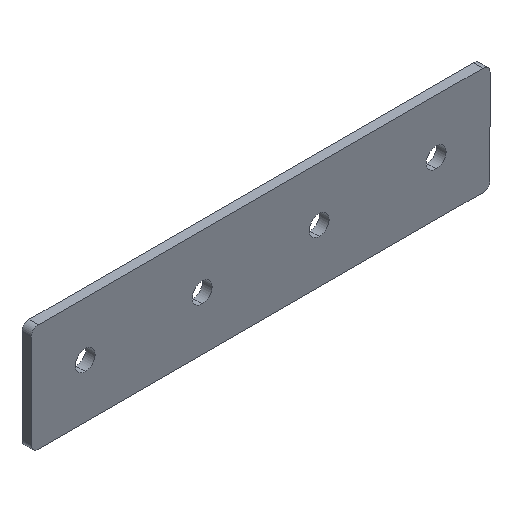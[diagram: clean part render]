
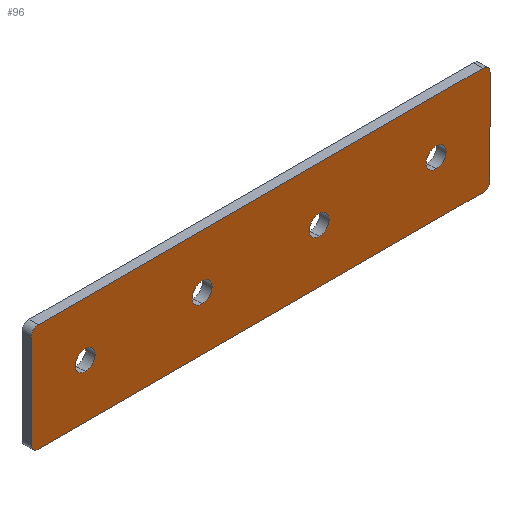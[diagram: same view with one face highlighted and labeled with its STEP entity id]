
A CAD part, isometric view. The second image highlights one B-rep face of the part: STEP entity #96.
In plain terms, the highlighted planar face has unit normal (0, -1, 0).
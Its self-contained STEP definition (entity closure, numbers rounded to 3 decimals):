
#10 = CARTESIAN_POINT ( 'NONE',  ( 160.365, -2., 8.885 ) ) ;
#12 = ORIENTED_EDGE ( 'NONE', *, *, #498, .F. ) ;
#14 = CARTESIAN_POINT ( 'NONE',  ( -9.654, -2., 27.635 ) ) ;
#15 = VERTEX_POINT ( 'NONE', #10 ) ;
#18 = DIRECTION ( 'NONE',  ( 0., 0., -1. ) ) ;
#24 = DIRECTION ( 'NONE',  ( 0., 1., 0. ) ) ;
#29 = CARTESIAN_POINT ( 'NONE',  ( 60.365, -2., 4.635 ) ) ;
#32 = AXIS2_PLACEMENT_3D ( 'NONE', #97, #177, #342 ) ;
#35 = DIRECTION ( 'NONE',  ( 0., 0., -1. ) ) ;
#38 = ORIENTED_EDGE ( 'NONE', *, *, #381, .F. ) ;
#42 = VERTEX_POINT ( 'NONE', #581 ) ;
#48 = VERTEX_POINT ( 'NONE', #85 ) ;
#57 = CARTESIAN_POINT ( 'NONE',  ( 60.365, -2., 0.385 ) ) ;
#60 = CARTESIAN_POINT ( 'NONE',  ( 10.365, -2., 0.385 ) ) ;
#77 = DIRECTION ( 'NONE',  ( 0., 1., 0. ) ) ;
#78 = AXIS2_PLACEMENT_3D ( 'NONE', #604, #566, #555 ) ;
#81 = CARTESIAN_POINT ( 'NONE',  ( 110.365, -2., 4.635 ) ) ;
#85 = CARTESIAN_POINT ( 'NONE',  ( 110.365, -2., 8.885 ) ) ;
#90 = VERTEX_POINT ( 'NONE', #14 ) ;
#93 = CARTESIAN_POINT ( 'NONE',  ( 180.385, -2., -18.365 ) ) ;
#96 = ADVANCED_FACE ( 'NONE', ( #305, #572, #643, #665, #350 ), #646, .F. ) ;
#97 = CARTESIAN_POINT ( 'NONE',  ( 180.385, -2., -15.385 ) ) ;
#98 = AXIS2_PLACEMENT_3D ( 'NONE', #673, #235, #269 ) ;
#100 = VECTOR ( 'NONE', #167, 1000. ) ;
#102 = AXIS2_PLACEMENT_3D ( 'NONE', #515, #443, #511 ) ;
#103 = ORIENTED_EDGE ( 'NONE', *, *, #396, .T. ) ;
#110 = VERTEX_POINT ( 'NONE', #439 ) ;
#128 = CARTESIAN_POINT ( 'NONE',  ( 180.385, -2., 24.654 ) ) ;
#129 = AXIS2_PLACEMENT_3D ( 'NONE', #255, #245, #218 ) ;
#130 = ORIENTED_EDGE ( 'NONE', *, *, #294, .T. ) ;
#133 = ORIENTED_EDGE ( 'NONE', *, *, #405, .T. ) ;
#139 = AXIS2_PLACEMENT_3D ( 'NONE', #629, #623, #621 ) ;
#150 = AXIS2_PLACEMENT_3D ( 'NONE', #412, #370, #517 ) ;
#162 = AXIS2_PLACEMENT_3D ( 'NONE', #29, #24, #18 ) ;
#165 = AXIS2_PLACEMENT_3D ( 'NONE', #81, #77, #35 ) ;
#167 = DIRECTION ( 'NONE',  ( 0., 0., -1. ) ) ;
#176 = CIRCLE ( 'NONE', #165, 4.25 ) ;
#177 = DIRECTION ( 'NONE',  ( 0., 1., 0. ) ) ;
#200 = VERTEX_POINT ( 'NONE', #591 ) ;
#203 = AXIS2_PLACEMENT_3D ( 'NONE', #353, #341, #339 ) ;
#207 = ORIENTED_EDGE ( 'NONE', *, *, #254, .T. ) ;
#211 = AXIS2_PLACEMENT_3D ( 'NONE', #544, #655, #441 ) ;
#215 = EDGE_LOOP ( 'NONE', ( #242, #610 ) ) ;
#218 = DIRECTION ( 'NONE',  ( 0., 0., -1. ) ) ;
#222 = VERTEX_POINT ( 'NONE', #538 ) ;
#228 = VERTEX_POINT ( 'NONE', #487 ) ;
#235 = DIRECTION ( 'NONE',  ( 0., 1., 0. ) ) ;
#241 = VERTEX_POINT ( 'NONE', #478 ) ;
#242 = ORIENTED_EDGE ( 'NONE', *, *, #301, .T. ) ;
#245 = DIRECTION ( 'NONE',  ( 0., 1., 0. ) ) ;
#250 = ORIENTED_EDGE ( 'NONE', *, *, #331, .T. ) ;
#254 = EDGE_CURVE ( 'NONE', #558, #15, #579, .T. ) ;
#255 = CARTESIAN_POINT ( 'NONE',  ( 60.365, -2., 4.635 ) ) ;
#267 = CARTESIAN_POINT ( 'NONE',  ( 183.365, -2., 24.654 ) ) ;
#269 = DIRECTION ( 'NONE',  ( 0., 0., -1. ) ) ;
#274 = LINE ( 'NONE', #93, #324 ) ;
#279 = ORIENTED_EDGE ( 'NONE', *, *, #480, .F. ) ;
#286 = EDGE_CURVE ( 'NONE', #504, #48, #176, .T. ) ;
#288 = CARTESIAN_POINT ( 'NONE',  ( -9.654, -2., -15.385 ) ) ;
#291 = LINE ( 'NONE', #567, #323 ) ;
#293 = DIRECTION ( 'NONE',  ( 0., 1., 0. ) ) ;
#294 = EDGE_CURVE ( 'NONE', #548, #482, #652, .T. ) ;
#301 = EDGE_CURVE ( 'NONE', #48, #504, #620, .T. ) ;
#305 = FACE_BOUND ( 'NONE', #506, .T. ) ;
#322 = VERTEX_POINT ( 'NONE', #455 ) ;
#323 = VECTOR ( 'NONE', #522, 1000. ) ;
#324 = VECTOR ( 'NONE', #539, 1000. ) ;
#331 = EDGE_CURVE ( 'NONE', #447, #228, #537, .T. ) ;
#335 = ORIENTED_EDGE ( 'NONE', *, *, #454, .F. ) ;
#339 = DIRECTION ( 'NONE',  ( 0., 0., -1. ) ) ;
#341 = DIRECTION ( 'NONE',  ( 0., 1., 0. ) ) ;
#342 = DIRECTION ( 'NONE',  ( 0., 0., 1. ) ) ;
#343 = EDGE_CURVE ( 'NONE', #473, #42, #291, .T. ) ;
#349 = DIRECTION ( 'NONE',  ( 0., 1., 0. ) ) ;
#350 = FACE_OUTER_BOUND ( 'NONE', #649, .T. ) ;
#353 = CARTESIAN_POINT ( 'NONE',  ( 160.365, -2., 4.635 ) ) ;
#355 = CARTESIAN_POINT ( 'NONE',  ( -12.635, -2., -15.385 ) ) ;
#356 = AXIS2_PLACEMENT_3D ( 'NONE', #128, #349, #535 ) ;
#368 = EDGE_CURVE ( 'NONE', #90, #241, #383, .T. ) ;
#370 = DIRECTION ( 'NONE',  ( 0., 1., 0. ) ) ;
#375 = EDGE_CURVE ( 'NONE', #482, #548, #509, .T. ) ;
#379 = CARTESIAN_POINT ( 'NONE',  ( 160.365, -2., 0.385 ) ) ;
#381 = EDGE_CURVE ( 'NONE', #222, #322, #429, .T. ) ;
#383 = LINE ( 'NONE', #413, #427 ) ;
#392 = CARTESIAN_POINT ( 'NONE',  ( 110.365, -2., 0.385 ) ) ;
#396 = EDGE_CURVE ( 'NONE', #228, #447, #587, .T. ) ;
#404 = ORIENTED_EDGE ( 'NONE', *, *, #343, .F. ) ;
#405 = EDGE_CURVE ( 'NONE', #15, #558, #644, .T. ) ;
#406 = EDGE_CURVE ( 'NONE', #42, #90, #534, .T. ) ;
#412 = CARTESIAN_POINT ( 'NONE',  ( 110.365, -2., 4.635 ) ) ;
#413 = CARTESIAN_POINT ( 'NONE',  ( -9.654, -2., 27.635 ) ) ;
#421 = CIRCLE ( 'NONE', #32, 2.981 ) ;
#425 = DIRECTION ( 'NONE',  ( 1., 0., 0. ) ) ;
#427 = VECTOR ( 'NONE', #425, 1000. ) ;
#429 = LINE ( 'NONE', #267, #100 ) ;
#432 = AXIS2_PLACEMENT_3D ( 'NONE', #288, #293, #545 ) ;
#439 = CARTESIAN_POINT ( 'NONE',  ( -9.654, -2., -18.365 ) ) ;
#441 = DIRECTION ( 'NONE',  ( 0., 0., 1. ) ) ;
#443 = DIRECTION ( 'NONE',  ( 0., 1., 0. ) ) ;
#447 = VERTEX_POINT ( 'NONE', #60 ) ;
#454 = EDGE_CURVE ( 'NONE', #200, #110, #274, .T. ) ;
#455 = CARTESIAN_POINT ( 'NONE',  ( 183.365, -2., -15.385 ) ) ;
#460 = EDGE_CURVE ( 'NONE', #322, #200, #421, .T. ) ;
#473 = VERTEX_POINT ( 'NONE', #355 ) ;
#476 = ORIENTED_EDGE ( 'NONE', *, *, #460, .F. ) ;
#478 = CARTESIAN_POINT ( 'NONE',  ( 180.385, -2., 27.635 ) ) ;
#480 = EDGE_CURVE ( 'NONE', #241, #222, #662, .T. ) ;
#482 = VERTEX_POINT ( 'NONE', #594 ) ;
#487 = CARTESIAN_POINT ( 'NONE',  ( 10.365, -2., 8.885 ) ) ;
#498 = EDGE_CURVE ( 'NONE', #110, #473, #543, .T. ) ;
#504 = VERTEX_POINT ( 'NONE', #392 ) ;
#506 = EDGE_LOOP ( 'NONE', ( #103, #250 ) ) ;
#508 = ORIENTED_EDGE ( 'NONE', *, *, #368, .F. ) ;
#509 = CIRCLE ( 'NONE', #129, 4.25 ) ;
#511 = DIRECTION ( 'NONE',  ( 0., 0., -1. ) ) ;
#515 = CARTESIAN_POINT ( 'NONE',  ( 10.365, -2., 4.635 ) ) ;
#517 = DIRECTION ( 'NONE',  ( 0., 0., -1. ) ) ;
#522 = DIRECTION ( 'NONE',  ( 0., 0., 1. ) ) ;
#534 = CIRCLE ( 'NONE', #78, 2.981 ) ;
#535 = DIRECTION ( 'NONE',  ( 0., 0., 1. ) ) ;
#537 = CIRCLE ( 'NONE', #139, 4.25 ) ;
#538 = CARTESIAN_POINT ( 'NONE',  ( 183.365, -2., 24.654 ) ) ;
#539 = DIRECTION ( 'NONE',  ( -1., 0., 0. ) ) ;
#543 = CIRCLE ( 'NONE', #432, 2.981 ) ;
#544 = CARTESIAN_POINT ( 'NONE',  ( -9.654, -2., 24.654 ) ) ;
#545 = DIRECTION ( 'NONE',  ( 0., 0., 1. ) ) ;
#548 = VERTEX_POINT ( 'NONE', #57 ) ;
#555 = DIRECTION ( 'NONE',  ( 0., 0., 1. ) ) ;
#558 = VERTEX_POINT ( 'NONE', #379 ) ;
#566 = DIRECTION ( 'NONE',  ( 0., 1., 0. ) ) ;
#567 = CARTESIAN_POINT ( 'NONE',  ( -12.635, -2., -15.385 ) ) ;
#572 = FACE_BOUND ( 'NONE', #635, .T. ) ;
#579 = CIRCLE ( 'NONE', #203, 4.25 ) ;
#581 = CARTESIAN_POINT ( 'NONE',  ( -12.635, -2., 24.654 ) ) ;
#587 = CIRCLE ( 'NONE', #102, 4.25 ) ;
#591 = CARTESIAN_POINT ( 'NONE',  ( 180.385, -2., -18.365 ) ) ;
#594 = CARTESIAN_POINT ( 'NONE',  ( 60.365, -2., 8.885 ) ) ;
#599 = EDGE_LOOP ( 'NONE', ( #133, #207 ) ) ;
#604 = CARTESIAN_POINT ( 'NONE',  ( -9.654, -2., 24.654 ) ) ;
#610 = ORIENTED_EDGE ( 'NONE', *, *, #286, .T. ) ;
#619 = ORIENTED_EDGE ( 'NONE', *, *, #375, .T. ) ;
#620 = CIRCLE ( 'NONE', #150, 4.25 ) ;
#621 = DIRECTION ( 'NONE',  ( 0., 0., -1. ) ) ;
#623 = DIRECTION ( 'NONE',  ( 0., 1., 0. ) ) ;
#626 = ORIENTED_EDGE ( 'NONE', *, *, #406, .F. ) ;
#629 = CARTESIAN_POINT ( 'NONE',  ( 10.365, -2., 4.635 ) ) ;
#635 = EDGE_LOOP ( 'NONE', ( #619, #130 ) ) ;
#643 = FACE_BOUND ( 'NONE', #215, .T. ) ;
#644 = CIRCLE ( 'NONE', #98, 4.25 ) ;
#646 = PLANE ( 'NONE',  #211 ) ;
#649 = EDGE_LOOP ( 'NONE', ( #626, #404, #12, #335, #476, #38, #279, #508 ) ) ;
#652 = CIRCLE ( 'NONE', #162, 4.25 ) ;
#655 = DIRECTION ( 'NONE',  ( 0., 1., 0. ) ) ;
#662 = CIRCLE ( 'NONE', #356, 2.981 ) ;
#665 = FACE_BOUND ( 'NONE', #599, .T. ) ;
#673 = CARTESIAN_POINT ( 'NONE',  ( 160.365, -2., 4.635 ) ) ;
